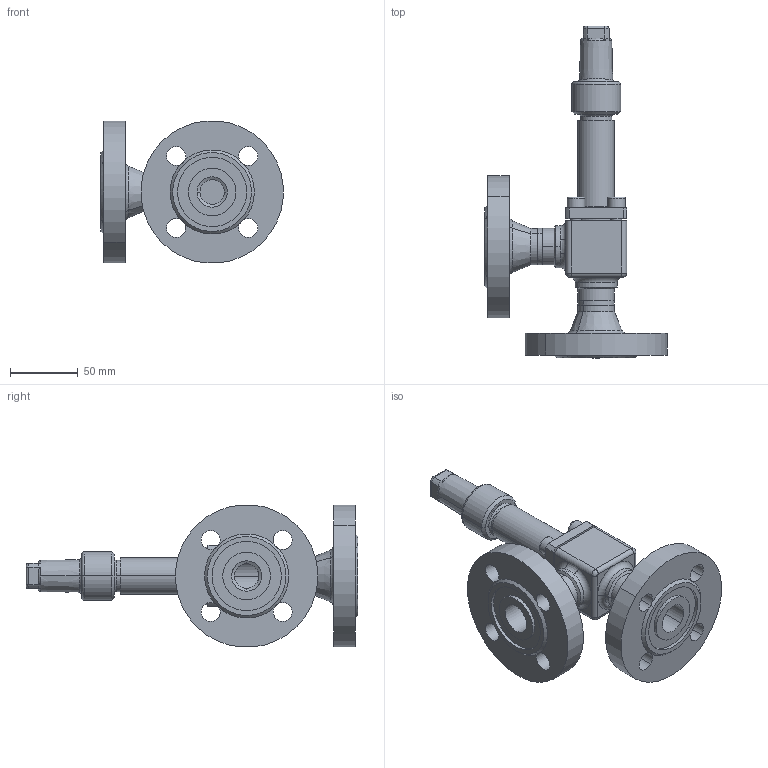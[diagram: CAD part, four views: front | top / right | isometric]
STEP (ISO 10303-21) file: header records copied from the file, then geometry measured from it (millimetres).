
FILE_DESCRIPTION (( 'STEP AP214' ), '1' );
FILE_NAME ('AVR96430-DN020_DIN-FL-N_PS40.STEP', '2006-05-02T08:25:39', ( 'Herr Grams' ), ( 'AWP GmbH' ), 'SwSTEP 2.0', 'SolidWorks 2002296', '' );
FILE_SCHEMA (( 'AUTOMOTIVE_DESIGN' ));
Length unit declared in the file: millimetre
Products named in the file (10): AVR96430-DN020_DIN-FL-N_PS40; Kappe96300E10_DN6-20_Standard; AVR96310E11_Deck+Schr-DN20_Standard; Deckel96310E11-DN20_PS40_Standard; Zylinderschraube-DIN912_M 8x 20; Geh-kpl96420E11-DN20_PS40_DIN-FL_Standard; Gehäuse96400E11-DN20_PS40_R1_Standard; Flansch-DIN2635-Nut_PS40_DIN-Flansch-DN020_PS40-Nut; bead964-DN020-2_Standard; bead964-DN020-1_Standard
Assembly tree (13 placements, depth 3):
  AVR96430-DN020_DIN-FL-N_PS40
    AVR96310E11_Deck+Schr-DN20_Standard
      Deckel96310E11-DN20_PS40_Standard
      Zylinderschraube-DIN912_M 8x 20  x4
    Geh-kpl96420E11-DN20_PS40_DIN-FL_Standard
      Gehäuse96400E11-DN20_PS40_R1_Standard
      Flansch-DIN2635-Nut_PS40_DIN-Flansch-DN020_PS40-Nut  x2
      bead964-DN020-2_Standard
      bead964-DN020-1_Standard
    Kappe96300E10_DN6-20_Standard
Bounding box: 134.3 x 244.5 x 104.6 mm (x, y, z)
Volume: 433051.7 mm3; surface area: 106982.5 mm2
Topology: 11 solids, 11 shells, 310 faces, 717 edges, 442 vertices
Faces by surface type: cylinder 120, plane 93, cone 50, torus 36, bspline 11
Entity records: 11919 total; most frequent: CARTESIAN_POINT 5946, DIRECTION 1160, ORIENTED_EDGE 1042, EDGE_CURVE 521, AXIS2_PLACEMENT_3D 484, VERTEX_POINT 318, EDGE_LOOP 257, CIRCLE 253
